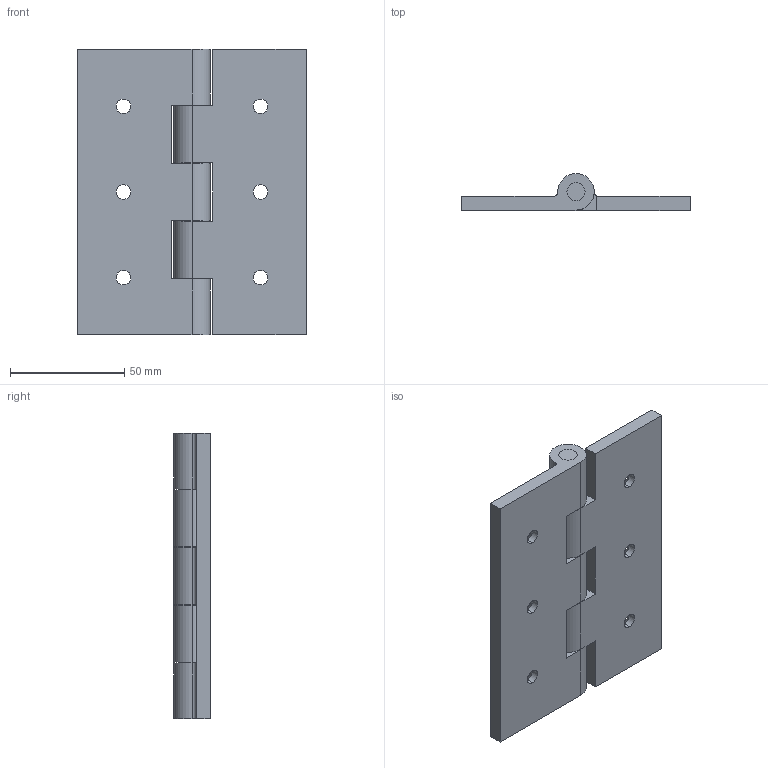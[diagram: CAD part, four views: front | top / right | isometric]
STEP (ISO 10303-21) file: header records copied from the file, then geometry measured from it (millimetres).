
FILE_DESCRIPTION (( 'STEP AP214' ), '1' );
FILE_NAME ('SK2-8064.STEP', '2020-04-02T01:16:00', ( 'admin' ), ( 'Microsoft' ), 'SwSTEP 2.0', 'SolidWorks 2018', '' );
FILE_SCHEMA (( 'AUTOMOTIVE_DESIGN' ));
Length unit declared in the file: millimetre
Products named in the file (4): 錨璃3^SK2-8064; 錨璃2^SK2-8064; 錨璃1^SK2-8064; SK2-8064
Assembly tree (3 placements, depth 2):
  SK2-8064
    錨璃1^SK2-8064
    錨璃2^SK2-8064
    錨璃3^SK2-8064
Bounding box: 100 x 16 x 125 mm (x, y, z)
Volume: 87266.5 mm3; surface area: 38069.9 mm2
Topology: 3 solids, 3 shells, 73 faces, 189 edges, 122 vertices
Faces by surface type: cylinder 36, plane 25, cone 12
Entity records: 2449 total; most frequent: DIRECTION 431, CARTESIAN_POINT 390, ORIENTED_EDGE 378, EDGE_CURVE 189, AXIS2_PLACEMENT_3D 163, VERTEX_POINT 122, VECTOR 105, LINE 105
